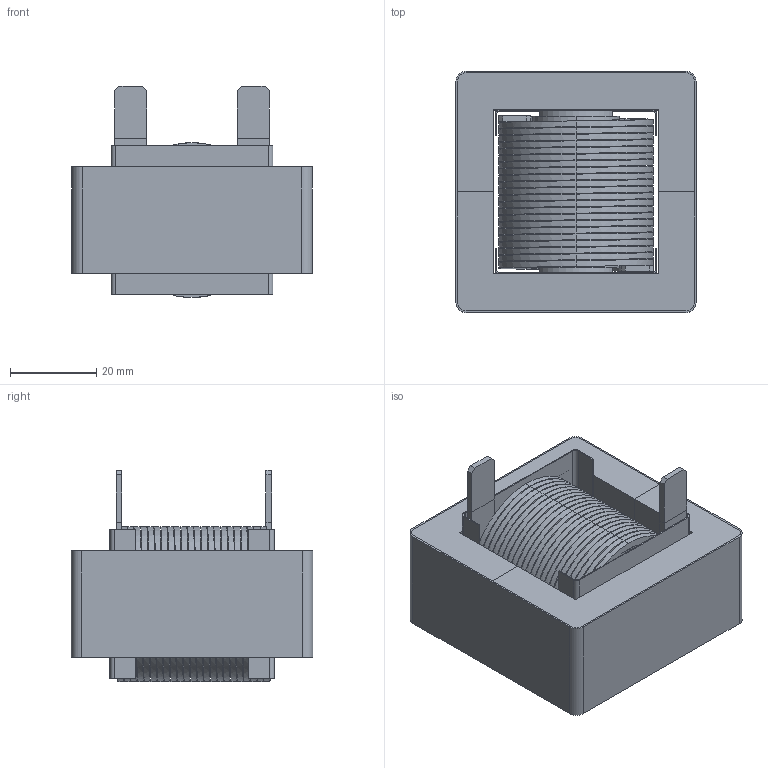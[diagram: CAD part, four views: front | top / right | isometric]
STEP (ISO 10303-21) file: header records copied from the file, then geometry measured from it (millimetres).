
FILE_DESCRIPTION (( 'STEP AP214' ), '1' );
FILE_NAME ('ES55246-111M-60AH.STEP', '2021-04-19T09:12:49', ( '' ), ( '' ), 'SwSTEP 2.0', 'SolidWorks 2015', '' );
FILE_SCHEMA (( 'AUTOMOTIVE_DESIGN' ));
Length unit declared in the file: millimetre
Products named in the file (6): WRAPPER; SIDE MYLAR; HELICAL COIL; ES55246-111M-60AH; CENTER MYLAR; E CORE
Assembly tree (7 placements, depth 2):
  ES55246-111M-60AH
    HELICAL COIL
    E CORE  x2
    SIDE MYLAR  x2
    CENTER MYLAR
    WRAPPER
Bounding box: 55.62 x 55.9 x 48.85 mm (x, y, z)
Volume: 72742.5 mm3; surface area: 72610 mm2
Topology: 9 solids, 9 shells, 364 faces, 988 edges, 656 vertices
Faces by surface type: plane 181, cylinder 124, bspline 59
Entity records: 17988 total; most frequent: CARTESIAN_POINT 8454, ORIENTED_EDGE 1808, DIRECTION 1208, EDGE_CURVE 904, VERTEX_POINT 600, LINE 552, VECTOR 552, EDGE_LOOP 354
